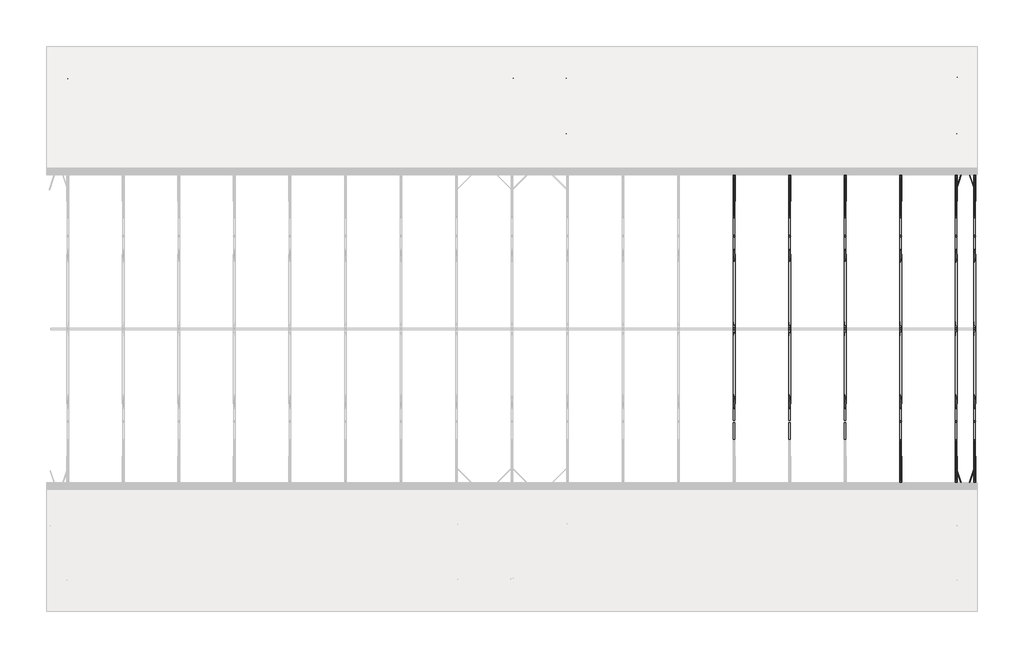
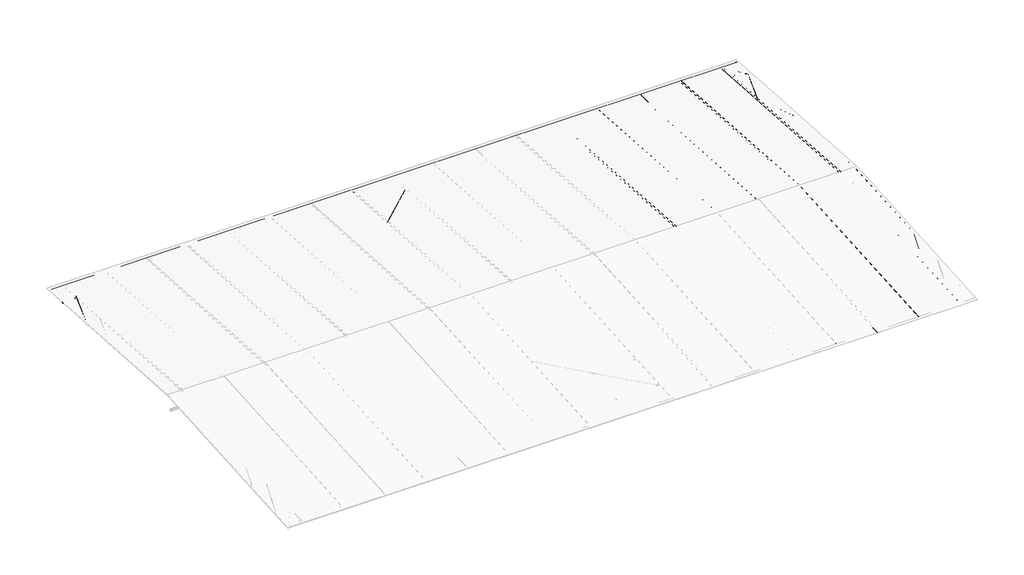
# One storey, part 3 of 3: 72 beams, 20 members.
"""IFC4 building model written with IfcOpenShell, lengths in millimetres."""

from ifc_helpers import new_model, si_unit, origin, place, context, project, spatial, transform, mapped, element, save
from components import round_bar_ef4423fe, round_bar_4b02da19, round_bar_197e2d5d, round_bar_92be63b7, round_bar_eebc96e0, round_bar_8cfec21f, round_bar_b8de9798, ub_universal_beams_ub305x165x40_7b27b8ec, ub_universal_beams_ub305x165x40_b91aa233, ub_universal_beams_ub305x165x40_f28fc4b8, ub_universal_beams_ub305x165x40_3e4cec4f, ub_universal_beams_ub305x165x40_2a322099, round_bars_rb_1_1_2_9ddfed39, round_bars_rb_1_1_2_a895e5a3, round_bars_rb_1_1_2_33a096da, round_bars_rb_1_1_2_096f664b, round_bars_rb_1_1_2_8bf5e9bd, round_bars_rb_1_1_2_8f09dae0, round_bars_rb_1_1_2_2b00b016, round_bars_rb_1_1_2_2cb97e74, round_bars_rb_1_1_2_9a199214, round_bars_rb_1_1_2_788aa87a, round_bars_rb_1_1_2_bb9791f2, round_bars_rb_1_1_2_0e442d66, round_bars_rb_1_1_2_57971bae, round_bars_rb_1_1_2_6163c6f7, round_bars_rb_1_1_2_9f87a777, round_bars_rb_1_1_2_a3ff04a2, round_bars_rb_1_1_2_305f0f3b, round_bars_rb_1_1_2_ce99a107

model = new_model("IFC4")

# Units and contexts
model_context = context("Model", 3, world=origin())
ifc_project = project(units=[si_unit("LENGTHUNIT", "METRE", prefix="MILLI")], contexts=[model_context])

# Site, building, storey
site = spatial("IfcSite", under=ifc_project)
building = spatial("IfcBuilding", under=site)
storey = spatial("IfcBuildingStorey", under=building, Name="Donji pojas resetke", Elevation=6000.0)

# Beams
placement = place(None, origin())
round_bar_shape = round_bar_ef4423fe(model_context)
element("IfcBeam", 1, ObjectType="Round Bar : Ispuna resetke", at=placement, inside=storey, context=model_context, shape_type="MappedRepresentation", body=[
    mapped(round_bar_shape, transform((65063.6750595, -22966.8171651, 7151.7), x_axis=(0.0, 0.0, 1.0), y_axis=(-1.0, 0.0, 0.0), z_axis=(0.0, -1.0, 0.0))),
])
element("IfcBeam", 2, ObjectType="Round Bar : Ispuna resetke", at=placement, inside=storey, context=model_context, shape_type="MappedRepresentation", body=[
    mapped(round_bar_shape, transform((71063.6750595, -22966.8171651, 7151.7), x_axis=(0.0, 0.0, 1.0), y_axis=(-1.0, 0.0, 0.0), z_axis=(0.0, -1.0, 0.0))),
])
element("IfcBeam", 3, ObjectType="Round Bar : Ispuna resetke", at=placement, inside=storey, context=model_context, shape_type="MappedRepresentation", body=[
    mapped(round_bar_shape, transform((77063.6750595, -22966.8171651, 7151.7), x_axis=(0.0, 0.0, 1.0), y_axis=(-1.0, 0.0, 0.0), z_axis=(0.0, -1.0, 0.0))),
])
element("IfcBeam", 4, ObjectType="Round Bar : Ispuna resetke", at=placement, inside=storey, context=model_context, shape_type="MappedRepresentation", body=[
    mapped(round_bar_shape, transform((83063.6750595, -22966.8171651, 7151.7), x_axis=(0.0, 0.0, 1.0), y_axis=(-1.0, 0.0, 0.0), z_axis=(0.0, -1.0, 0.0))),
])
element("IfcBeam", 5, ObjectType="Round Bar : Ispuna resetke", at=placement, inside=storey, context=model_context, shape_type="MappedRepresentation", body=[
    mapped(round_bar_shape, transform((89063.6750595, -22966.8171651, 7151.7), x_axis=(0.0, 0.0, 1.0), y_axis=(-1.0, 0.0, 0.0), z_axis=(0.0, -1.0, 0.0))),
])
element("IfcBeam", 6, ObjectType="Round Bar : Ispuna resetke", at=placement, inside=storey, context=model_context, shape_type="MappedRepresentation", body=[
    mapped(round_bar_shape, transform((91063.6750595, -22966.8171651, 7151.7), x_axis=(0.0, 0.0, 1.0), y_axis=(-1.0, 0.0, 0.0), z_axis=(0.0, -1.0, 0.0))),
])
element("IfcBeam", 7, ObjectType="Round Bar : Ispuna resetke", at=placement, inside=storey, context=model_context, shape_type="MappedRepresentation", body=[
    mapped(round_bar_shape, transform((89063.6750595, -22966.8171651, 7151.7), x_axis=(0.0, 0.0, 1.0), y_axis=(-1.0, 0.0, 0.0), z_axis=(0.0, -1.0, 0.0))),
])
round_bar_2_shape = round_bar_4b02da19(model_context)
element("IfcBeam", 8, ObjectType="Round Bar : Ispuna resetke", at=placement, inside=storey, context=model_context, shape_type="MappedRepresentation", body=[
    mapped(round_bar_2_shape, transform((65063.6750595, -12966.8171651, 6818.3666667), x_axis=(0.0, 0.0, 1.0), y_axis=(-1.0, 0.0, 0.0), z_axis=(0.0, -1.0, 0.0))),
])
element("IfcBeam", 9, ObjectType="Round Bar : Ispuna resetke", at=placement, inside=storey, context=model_context, shape_type="MappedRepresentation", body=[
    mapped(round_bar_2_shape, transform((71063.6750595, -12966.8171651, 6818.3666667), x_axis=(0.0, 0.0, 1.0), y_axis=(-1.0, 0.0, 0.0), z_axis=(0.0, -1.0, 0.0))),
])
element("IfcBeam", 10, ObjectType="Round Bar : Ispuna resetke", at=placement, inside=storey, context=model_context, shape_type="MappedRepresentation", body=[
    mapped(round_bar_2_shape, transform((77063.6750595, -12966.8171651, 6818.3666667), x_axis=(0.0, 0.0, 1.0), y_axis=(-1.0, 0.0, 0.0), z_axis=(0.0, -1.0, 0.0))),
])
element("IfcBeam", 11, ObjectType="Round Bar : Ispuna resetke", at=placement, inside=storey, context=model_context, shape_type="MappedRepresentation", body=[
    mapped(round_bar_2_shape, transform((83063.6750595, -12966.8171651, 6818.3666667), x_axis=(0.0, 0.0, 1.0), y_axis=(-1.0, 0.0, 0.0), z_axis=(0.0, -1.0, 0.0))),
])
element("IfcBeam", 12, ObjectType="Round Bar : Ispuna resetke", at=placement, inside=storey, context=model_context, shape_type="MappedRepresentation", body=[
    mapped(round_bar_2_shape, transform((83063.6750595, -32966.8171651, 6818.3666667), x_axis=(0.0, 0.0, 1.0), y_axis=(-1.0, 0.0, 0.0), z_axis=(0.0, -1.0, 0.0))),
])
element("IfcBeam", 13, ObjectType="Round Bar : Ispuna resetke", at=placement, inside=storey, context=model_context, shape_type="MappedRepresentation", body=[
    mapped(round_bar_2_shape, transform((89063.6750595, -12966.8171651, 6818.3666667), x_axis=(0.0, 0.0, 1.0), y_axis=(-1.0, 0.0, 0.0), z_axis=(0.0, -1.0, 0.0))),
])
element("IfcBeam", 14, ObjectType="Round Bar : Ispuna resetke", at=placement, inside=storey, context=model_context, shape_type="MappedRepresentation", body=[
    mapped(round_bar_2_shape, transform((89063.6750595, -32966.8171651, 6818.3666667), x_axis=(0.0, 0.0, 1.0), y_axis=(-1.0, 0.0, 0.0), z_axis=(0.0, -1.0, 0.0))),
])
element("IfcBeam", 15, ObjectType="Round Bar : Ispuna resetke", at=placement, inside=storey, context=model_context, shape_type="MappedRepresentation", body=[
    mapped(round_bar_2_shape, transform((91063.6750595, -12966.8171651, 6818.3666667), x_axis=(0.0, 0.0, 1.0), y_axis=(-1.0, 0.0, 0.0), z_axis=(0.0, -1.0, 0.0))),
])
element("IfcBeam", 16, ObjectType="Round Bar : Ispuna resetke", at=placement, inside=storey, context=model_context, shape_type="MappedRepresentation", body=[
    mapped(round_bar_2_shape, transform((91063.6750595, -32966.8171651, 6818.3666667), x_axis=(0.0, 0.0, 1.0), y_axis=(-1.0, 0.0, 0.0), z_axis=(0.0, -1.0, 0.0))),
])
element("IfcBeam", 17, ObjectType="Round Bar : Ispuna resetke", at=placement, inside=storey, context=model_context, shape_type="MappedRepresentation", body=[
    mapped(round_bar_2_shape, transform((89063.6750595, -12966.8171651, 6818.3666667), x_axis=(0.0, 0.0, 1.0), y_axis=(-1.0, 0.0, 0.0), z_axis=(0.0, -1.0, 0.0))),
])
element("IfcBeam", 18, ObjectType="Round Bar : Ispuna resetke", at=placement, inside=storey, context=model_context, shape_type="MappedRepresentation", body=[
    mapped(round_bar_2_shape, transform((89063.6750595, -32966.8171651, 6818.3666667), x_axis=(0.0, 0.0, 1.0), y_axis=(-1.0, 0.0, 0.0), z_axis=(0.0, -1.0, 0.0))),
])
round_bar_3_shape = round_bar_197e2d5d(model_context)
element("IfcBeam", 19, ObjectType="Round Bar : Ispuna resetke", at=placement, inside=storey, context=model_context, shape_type="MappedRepresentation", body=[
    mapped(round_bar_3_shape, transform((65063.6750595, -2966.8171651, 6485.0333333), x_axis=(0.0, 0.0, 1.0), y_axis=(-1.0, 0.0, 0.0), z_axis=(0.0, -1.0, 0.0))),
])
element("IfcBeam", 20, ObjectType="Round Bar : Ispuna resetke", at=placement, inside=storey, context=model_context, shape_type="MappedRepresentation", body=[
    mapped(round_bar_3_shape, transform((71063.6750595, -2966.8171651, 6485.0333333), x_axis=(0.0, 0.0, 1.0), y_axis=(-1.0, 0.0, 0.0), z_axis=(0.0, -1.0, 0.0))),
])
element("IfcBeam", 21, ObjectType="Round Bar : Ispuna resetke", at=placement, inside=storey, context=model_context, shape_type="MappedRepresentation", body=[
    mapped(round_bar_3_shape, transform((77063.6750595, -2966.8171651, 6485.0333333), x_axis=(0.0, 0.0, 1.0), y_axis=(-1.0, 0.0, 0.0), z_axis=(0.0, -1.0, 0.0))),
])
element("IfcBeam", 22, ObjectType="Round Bar : Ispuna resetke", at=placement, inside=storey, context=model_context, shape_type="MappedRepresentation", body=[
    mapped(round_bar_3_shape, transform((83063.6750595, -2966.8171651, 6485.0333333), x_axis=(0.0, 0.0, 1.0), y_axis=(-1.0, 0.0, 0.0), z_axis=(0.0, -1.0, 0.0))),
])
element("IfcBeam", 23, ObjectType="Round Bar : Ispuna resetke", at=placement, inside=storey, context=model_context, shape_type="MappedRepresentation", body=[
    mapped(round_bar_3_shape, transform((89063.6750595, -2966.8171651, 6485.0333333), x_axis=(0.0, 0.0, 1.0), y_axis=(-1.0, 0.0, 0.0), z_axis=(0.0, -1.0, 0.0))),
])
element("IfcBeam", 24, ObjectType="Round Bar : Ispuna resetke", at=placement, inside=storey, context=model_context, shape_type="MappedRepresentation", body=[
    mapped(round_bar_3_shape, transform((89063.6750595, -42966.8171651, 6485.0333333), x_axis=(0.0, 0.0, 1.0), y_axis=(-1.0, 0.0, 0.0), z_axis=(0.0, -1.0, 0.0))),
])
element("IfcBeam", 25, ObjectType="Round Bar : Ispuna resetke", at=placement, inside=storey, context=model_context, shape_type="MappedRepresentation", body=[
    mapped(round_bar_3_shape, transform((91063.6750595, -2966.8171651, 6485.0333333), x_axis=(0.0, 0.0, 1.0), y_axis=(-1.0, 0.0, 0.0), z_axis=(0.0, -1.0, 0.0))),
])
element("IfcBeam", 26, ObjectType="Round Bar : Ispuna resetke", at=placement, inside=storey, context=model_context, shape_type="MappedRepresentation", body=[
    mapped(round_bar_3_shape, transform((91063.6750595, -42966.8171651, 6485.0333333), x_axis=(0.0, 0.0, 1.0), y_axis=(-1.0, 0.0, 0.0), z_axis=(0.0, -1.0, 0.0))),
])
element("IfcBeam", 27, ObjectType="Round Bar : Ispuna resetke", at=placement, inside=storey, context=model_context, shape_type="MappedRepresentation", body=[
    mapped(round_bar_3_shape, transform((89063.6750595, -2966.8171651, 6485.0333333), x_axis=(0.0, 0.0, 1.0), y_axis=(-1.0, 0.0, 0.0), z_axis=(0.0, -1.0, 0.0))),
])
element("IfcBeam", 28, ObjectType="Round Bar : Ispuna resetke", at=placement, inside=storey, context=model_context, shape_type="MappedRepresentation", body=[
    mapped(round_bar_3_shape, transform((89063.6750595, -42966.8171651, 6485.0333333), x_axis=(0.0, 0.0, 1.0), y_axis=(-1.0, 0.0, 0.0), z_axis=(0.0, -1.0, 0.0))),
])
round_bar_4_shape = round_bar_92be63b7(model_context)
element("IfcBeam", 29, ObjectType="Round Bar : Ispuna resetke", at=placement, inside=storey, context=model_context, shape_type="MappedRepresentation", body=[
    mapped(round_bar_4_shape, transform((65063.6750595, -17966.8171651, 6818.3666667), x_axis=(0.0, -0.9912279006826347, -0.13216372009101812), y_axis=(-1.0, 0.0, 0.0), z_axis=(0.0, 0.13216372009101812, -0.9912279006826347))),
])
element("IfcBeam", 30, ObjectType="Round Bar : Ispuna resetke", at=placement, inside=storey, context=model_context, shape_type="MappedRepresentation", body=[
    mapped(round_bar_4_shape, transform((71063.6750595, -17966.8171651, 6818.3666667), x_axis=(0.0, -0.9912279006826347, -0.13216372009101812), y_axis=(-1.0, 0.0, 0.0), z_axis=(0.0, 0.13216372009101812, -0.9912279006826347))),
])
element("IfcBeam", 31, ObjectType="Round Bar : Ispuna resetke", at=placement, inside=storey, context=model_context, shape_type="MappedRepresentation", body=[
    mapped(round_bar_4_shape, transform((77063.6750595, -17966.8171651, 6818.3666667), x_axis=(0.0, -0.9912279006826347, -0.13216372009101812), y_axis=(-1.0, 0.0, 0.0), z_axis=(0.0, 0.13216372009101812, -0.9912279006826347))),
])
element("IfcBeam", 32, ObjectType="Round Bar : Ispuna resetke", at=placement, inside=storey, context=model_context, shape_type="MappedRepresentation", body=[
    mapped(round_bar_4_shape, transform((83063.6750595, -17966.8171651, 6818.3666667), x_axis=(0.0, -0.9912279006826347, -0.13216372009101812), y_axis=(-1.0, 0.0, 0.0), z_axis=(0.0, 0.13216372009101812, -0.9912279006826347))),
])
element("IfcBeam", 33, ObjectType="Round Bar : Ispuna resetke", at=placement, inside=storey, context=model_context, shape_type="MappedRepresentation", body=[
    mapped(round_bar_4_shape, transform((89063.6750595, -17966.8171651, 6818.3666667), x_axis=(0.0, -0.9912279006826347, -0.13216372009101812), y_axis=(-1.0, 0.0, 0.0), z_axis=(0.0, 0.13216372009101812, -0.9912279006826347))),
])
element("IfcBeam", 34, ObjectType="Round Bar : Ispuna resetke", at=placement, inside=storey, context=model_context, shape_type="MappedRepresentation", body=[
    mapped(round_bar_4_shape, transform((91063.6750595, -17966.8171651, 6818.3666667), x_axis=(0.0, -0.9912279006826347, -0.13216372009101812), y_axis=(-1.0, 0.0, 0.0), z_axis=(0.0, 0.13216372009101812, -0.9912279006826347))),
])
element("IfcBeam", 35, ObjectType="Round Bar : Ispuna resetke", at=placement, inside=storey, context=model_context, shape_type="MappedRepresentation", body=[
    mapped(round_bar_4_shape, transform((89063.6750595, -17966.8171651, 6818.3666667), x_axis=(0.0, -0.9912279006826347, -0.13216372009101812), y_axis=(-1.0, 0.0, 0.0), z_axis=(0.0, 0.13216372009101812, -0.9912279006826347))),
])
round_bar_5_shape = round_bar_eebc96e0(model_context)
element("IfcBeam", 36, ObjectType="Round Bar : Ispuna resetke", at=placement, inside=storey, context=model_context, shape_type="MappedRepresentation", body=[
    mapped(round_bar_5_shape, transform((65063.6750595, -7966.8171651, 6485.0333333), x_axis=(0.0, -0.9977851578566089, -0.06651901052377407), y_axis=(-1.0, 0.0, 0.0), z_axis=(0.0, 0.06651901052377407, -0.9977851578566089))),
])
element("IfcBeam", 37, ObjectType="Round Bar : Ispuna resetke", at=placement, inside=storey, context=model_context, shape_type="MappedRepresentation", body=[
    mapped(round_bar_5_shape, transform((71063.6750595, -7966.8171651, 6485.0333333), x_axis=(0.0, -0.9977851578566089, -0.06651901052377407), y_axis=(-1.0, 0.0, 0.0), z_axis=(0.0, 0.06651901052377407, -0.9977851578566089))),
])
element("IfcBeam", 38, ObjectType="Round Bar : Ispuna resetke", at=placement, inside=storey, context=model_context, shape_type="MappedRepresentation", body=[
    mapped(round_bar_5_shape, transform((77063.6750595, -7966.8171651, 6485.0333333), x_axis=(0.0, -0.9977851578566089, -0.06651901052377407), y_axis=(-1.0, 0.0, 0.0), z_axis=(0.0, 0.06651901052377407, -0.9977851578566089))),
])
element("IfcBeam", 39, ObjectType="Round Bar : Ispuna resetke", at=placement, inside=storey, context=model_context, shape_type="MappedRepresentation", body=[
    mapped(round_bar_5_shape, transform((83063.6750595, -7966.8171651, 6485.0333333), x_axis=(0.0, -0.9977851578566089, -0.06651901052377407), y_axis=(-1.0, 0.0, 0.0), z_axis=(0.0, 0.06651901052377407, -0.9977851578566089))),
])
element("IfcBeam", 40, ObjectType="Round Bar : Ispuna resetke", at=placement, inside=storey, context=model_context, shape_type="MappedRepresentation", body=[
    mapped(round_bar_5_shape, transform((89063.6750595, -7966.8171651, 6485.0333333), x_axis=(0.0, -0.9977851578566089, -0.06651901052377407), y_axis=(-1.0, 0.0, 0.0), z_axis=(0.0, 0.06651901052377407, -0.9977851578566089))),
])
element("IfcBeam", 41, ObjectType="Round Bar : Ispuna resetke", at=placement, inside=storey, context=model_context, shape_type="MappedRepresentation", body=[
    mapped(round_bar_5_shape, transform((91063.6750595, -7966.8171651, 6485.0333333), x_axis=(0.0, -0.9977851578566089, -0.06651901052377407), y_axis=(-1.0, 0.0, 0.0), z_axis=(0.0, 0.06651901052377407, -0.9977851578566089))),
])
element("IfcBeam", 42, ObjectType="Round Bar : Ispuna resetke", at=placement, inside=storey, context=model_context, shape_type="MappedRepresentation", body=[
    mapped(round_bar_5_shape, transform((89063.6750595, -7966.8171651, 6485.0333333), x_axis=(0.0, -0.9977851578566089, -0.06651901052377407), y_axis=(-1.0, 0.0, 0.0), z_axis=(0.0, 0.06651901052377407, -0.9977851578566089))),
])
round_bar_6_shape = round_bar_8cfec21f(model_context)
element("IfcBeam", 43, ObjectType="Round Bar : Ispuna resetke", at=placement, inside=storey, context=model_context, shape_type="MappedRepresentation", body=[
    mapped(round_bar_6_shape, transform((65063.6750595, -27966.8171651, 6818.3666667), x_axis=(0.0, -0.9912279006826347, 0.13216372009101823), y_axis=(-1.0, 0.0, 0.0), z_axis=(0.0, -0.13216372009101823, -0.9912279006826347))),
])
element("IfcBeam", 44, ObjectType="Round Bar : Ispuna resetke", at=placement, inside=storey, context=model_context, shape_type="MappedRepresentation", body=[
    mapped(round_bar_6_shape, transform((71063.6750595, -27966.8171651, 6818.3666667), x_axis=(0.0, -0.9912279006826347, 0.13216372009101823), y_axis=(-1.0, 0.0, 0.0), z_axis=(0.0, -0.13216372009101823, -0.9912279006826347))),
])
element("IfcBeam", 45, ObjectType="Round Bar : Ispuna resetke", at=placement, inside=storey, context=model_context, shape_type="MappedRepresentation", body=[
    mapped(round_bar_6_shape, transform((77063.6750595, -27966.8171651, 6818.3666667), x_axis=(0.0, -0.9912279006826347, 0.13216372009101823), y_axis=(-1.0, 0.0, 0.0), z_axis=(0.0, -0.13216372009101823, -0.9912279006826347))),
])
element("IfcBeam", 46, ObjectType="Round Bar : Ispuna resetke", at=placement, inside=storey, context=model_context, shape_type="MappedRepresentation", body=[
    mapped(round_bar_6_shape, transform((83063.6750595, -27966.8171651, 6818.3666667), x_axis=(0.0, -0.9912279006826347, 0.13216372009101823), y_axis=(-1.0, 0.0, 0.0), z_axis=(0.0, -0.13216372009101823, -0.9912279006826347))),
])
element("IfcBeam", 47, ObjectType="Round Bar : Ispuna resetke", at=placement, inside=storey, context=model_context, shape_type="MappedRepresentation", body=[
    mapped(round_bar_6_shape, transform((89063.6750595, -27966.8171651, 6818.3666667), x_axis=(0.0, -0.9912279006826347, 0.13216372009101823), y_axis=(-1.0, 0.0, 0.0), z_axis=(0.0, -0.13216372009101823, -0.9912279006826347))),
])
element("IfcBeam", 48, ObjectType="Round Bar : Ispuna resetke", at=placement, inside=storey, context=model_context, shape_type="MappedRepresentation", body=[
    mapped(round_bar_6_shape, transform((91063.6750595, -27966.8171651, 6818.3666667), x_axis=(0.0, -0.9912279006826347, 0.13216372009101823), y_axis=(-1.0, 0.0, 0.0), z_axis=(0.0, -0.13216372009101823, -0.9912279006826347))),
])
element("IfcBeam", 49, ObjectType="Round Bar : Ispuna resetke", at=placement, inside=storey, context=model_context, shape_type="MappedRepresentation", body=[
    mapped(round_bar_6_shape, transform((89063.6750595, -27966.8171651, 6818.3666667), x_axis=(0.0, -0.9912279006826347, 0.13216372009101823), y_axis=(-1.0, 0.0, 0.0), z_axis=(0.0, -0.13216372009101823, -0.9912279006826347))),
])
round_bar_7_shape = round_bar_b8de9798(model_context)
element("IfcBeam", 50, ObjectType="Round Bar : Ispuna resetke", at=placement, inside=storey, context=model_context, shape_type="MappedRepresentation", body=[
    mapped(round_bar_7_shape, transform((83063.6750595, -37966.8171651, 6485.0333333), x_axis=(0.0, -0.9977851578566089, 0.0665190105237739), y_axis=(-1.0, 0.0, 0.0), z_axis=(0.0, -0.0665190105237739, -0.9977851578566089))),
])
element("IfcBeam", 51, ObjectType="Round Bar : Ispuna resetke", at=placement, inside=storey, context=model_context, shape_type="MappedRepresentation", body=[
    mapped(round_bar_7_shape, transform((89063.6750595, -37966.8171651, 6485.0333333), x_axis=(0.0, -0.9977851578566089, 0.0665190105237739), y_axis=(-1.0, 0.0, 0.0), z_axis=(0.0, -0.0665190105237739, -0.9977851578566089))),
])
element("IfcBeam", 52, ObjectType="Round Bar : Ispuna resetke", at=placement, inside=storey, context=model_context, shape_type="MappedRepresentation", body=[
    mapped(round_bar_7_shape, transform((91063.6750595, -37966.8171651, 6485.0333333), x_axis=(0.0, -0.9977851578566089, 0.0665190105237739), y_axis=(-1.0, 0.0, 0.0), z_axis=(0.0, -0.0665190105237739, -0.9977851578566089))),
])
element("IfcBeam", 53, ObjectType="Round Bar : Ispuna resetke", at=placement, inside=storey, context=model_context, shape_type="MappedRepresentation", body=[
    mapped(round_bar_7_shape, transform((89063.6750595, -37966.8171651, 6485.0333333), x_axis=(0.0, -0.9977851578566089, 0.0665190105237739), y_axis=(-1.0, 0.0, 0.0), z_axis=(0.0, -0.0665190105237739, -0.9977851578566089))),
])
ub_universal_beams_ub305x165x40_shape = ub_universal_beams_ub305x165x40_7b27b8ec(model_context)
element("IfcBeam", 54, ObjectType="UB-Universal Beams : UB305x165x40", at=placement, inside=storey, context=model_context, shape_type="MappedRepresentation", body=[
    mapped(ub_universal_beams_ub305x165x40_shape, transform((65063.6750595, -22966.8171651, 6151.7), x_axis=(0.0, -1.0, 0.0), y_axis=(1.0, 0.0, 0.0), z_axis=(0.0, 0.0, 1.0))),
])
element("IfcBeam", 55, ObjectType="UB-Universal Beams : UB305x165x40", at=placement, inside=storey, context=model_context, shape_type="MappedRepresentation", body=[
    mapped(ub_universal_beams_ub305x165x40_shape, transform((71063.6750595, -22966.8171651, 6151.7), x_axis=(0.0, -1.0, 0.0), y_axis=(1.0, 0.0, 0.0), z_axis=(0.0, 0.0, 1.0))),
])
element("IfcBeam", 56, ObjectType="UB-Universal Beams : UB305x165x40", at=placement, inside=storey, context=model_context, shape_type="MappedRepresentation", body=[
    mapped(ub_universal_beams_ub305x165x40_shape, transform((77063.6750595, -22966.8171651, 6151.7), x_axis=(0.0, -1.0, 0.0), y_axis=(1.0, 0.0, 0.0), z_axis=(0.0, 0.0, 1.0))),
])
element("IfcBeam", 57, ObjectType="UB-Universal Beams : UB305x165x40", at=placement, inside=storey, context=model_context, shape_type="MappedRepresentation", body=[
    mapped(ub_universal_beams_ub305x165x40_shape, transform((83063.6750595, -22966.8171651, 6151.7), x_axis=(0.0, -1.0, 0.0), y_axis=(1.0, 0.0, 0.0), z_axis=(0.0, 0.0, 1.0))),
])
element("IfcBeam", 58, ObjectType="UB-Universal Beams : UB305x165x40", at=placement, inside=storey, context=model_context, shape_type="MappedRepresentation", body=[
    mapped(ub_universal_beams_ub305x165x40_shape, transform((89063.6750595, -22966.8171651, 6151.7), x_axis=(0.0, -1.0, 0.0), y_axis=(1.0, 0.0, 0.0), z_axis=(0.0, 0.0, 1.0))),
])
element("IfcBeam", 59, ObjectType="UB-Universal Beams : UB305x165x40", at=placement, inside=storey, context=model_context, shape_type="MappedRepresentation", body=[
    mapped(ub_universal_beams_ub305x165x40_shape, transform((91063.6750595, -22966.8171651, 6151.7), x_axis=(0.0, -1.0, 0.0), y_axis=(1.0, 0.0, 0.0), z_axis=(0.0, 0.0, 1.0))),
])
element("IfcBeam", 60, ObjectType="UB-Universal Beams : UB305x165x40", at=placement, inside=storey, context=model_context, shape_type="MappedRepresentation", body=[
    mapped(ub_universal_beams_ub305x165x40_shape, transform((89063.6750595, -22966.8171651, 6151.7), x_axis=(0.0, -1.0, 0.0), y_axis=(1.0, 0.0, 0.0), z_axis=(0.0, 0.0, 1.0))),
])
ub_universal_beams_ub305x165x40_2_shape = ub_universal_beams_ub305x165x40_b91aa233(model_context)
element("IfcBeam", 61, ObjectType="UB-Universal Beams : UB305x165x40", at=placement, inside=storey, context=model_context, shape_type="MappedRepresentation", body=[
    mapped(ub_universal_beams_ub305x165x40_2_shape, transform((91063.6750595, -7966.8171651, 7151.7), x_axis=(0.0, -0.9977851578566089, 0.06651901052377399), y_axis=(1.0, 0.0, 0.0), z_axis=(0.0, 0.06651901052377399, 0.9977851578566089))),
])
ub_universal_beams_ub305x165x40_3_shape = ub_universal_beams_ub305x165x40_f28fc4b8(model_context)
element("IfcBeam", 62, ObjectType="UB-Universal Beams : UB305x165x40", at=placement, inside=storey, context=model_context, shape_type="MappedRepresentation", body=[
    mapped(ub_universal_beams_ub305x165x40_3_shape, transform((83063.6750595, -37966.8171651, 7151.7), x_axis=(0.0, -0.9977851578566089, -0.06651901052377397), y_axis=(1.0, 0.0, 0.0), z_axis=(0.0, -0.06651901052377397, 0.9977851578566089))),
])
element("IfcBeam", 63, ObjectType="UB-Universal Beams : UB305x165x40", at=placement, inside=storey, context=model_context, shape_type="MappedRepresentation", body=[
    mapped(ub_universal_beams_ub305x165x40_3_shape, transform((89063.6750595, -37966.8171651, 7151.7), x_axis=(0.0, -0.9977851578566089, -0.06651901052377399), y_axis=(1.0, 0.0, 0.0), z_axis=(0.0, -0.06651901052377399, 0.9977851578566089))),
])
element("IfcBeam", 64, ObjectType="UB-Universal Beams : UB305x165x40", at=placement, inside=storey, context=model_context, shape_type="MappedRepresentation", body=[
    mapped(ub_universal_beams_ub305x165x40_3_shape, transform((91063.6750595, -37966.8171651, 7151.7), x_axis=(0.0, -0.9977851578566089, -0.066519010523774), y_axis=(1.0, 0.0, 0.0), z_axis=(0.0, -0.066519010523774, 0.9977851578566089))),
])
element("IfcBeam", 65, ObjectType="UB-Universal Beams : UB305x165x40", at=placement, inside=storey, context=model_context, shape_type="MappedRepresentation", body=[
    mapped(ub_universal_beams_ub305x165x40_3_shape, transform((89063.6750595, -37966.8171651, 7151.7), x_axis=(0.0, -0.9977851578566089, -0.06651901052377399), y_axis=(1.0, 0.0, 0.0), z_axis=(0.0, -0.06651901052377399, 0.9977851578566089))),
])
ub_universal_beams_ub305x165x40_4_shape = ub_universal_beams_ub305x165x40_3e4cec4f(model_context)
element("IfcBeam", 66, ObjectType="UB-Universal Beams : UB305x165x40", at=placement, inside=storey, context=model_context, shape_type="MappedRepresentation", body=[
    mapped(ub_universal_beams_ub305x165x40_4_shape, transform((65063.6750595, -7966.8171651, 7151.7), x_axis=(0.0, -0.9977851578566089, 0.06651901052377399), y_axis=(1.0, 0.0, 0.0), z_axis=(0.0, 0.06651901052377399, 0.9977851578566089))),
])
element("IfcBeam", 67, ObjectType="UB-Universal Beams : UB305x165x40", at=placement, inside=storey, context=model_context, shape_type="MappedRepresentation", body=[
    mapped(ub_universal_beams_ub305x165x40_4_shape, transform((71063.6750595, -7966.8171651, 7151.7), x_axis=(0.0, -0.9977851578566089, 0.06651901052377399), y_axis=(1.0, 0.0, 0.0), z_axis=(0.0, 0.06651901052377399, 0.9977851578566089))),
])
element("IfcBeam", 68, ObjectType="UB-Universal Beams : UB305x165x40", at=placement, inside=storey, context=model_context, shape_type="MappedRepresentation", body=[
    mapped(ub_universal_beams_ub305x165x40_4_shape, transform((77063.6750595, -7966.8171651, 7151.7), x_axis=(0.0, -0.9977851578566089, 0.06651901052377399), y_axis=(1.0, 0.0, 0.0), z_axis=(0.0, 0.06651901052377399, 0.9977851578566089))),
])
element("IfcBeam", 69, ObjectType="UB-Universal Beams : UB305x165x40", at=placement, inside=storey, context=model_context, shape_type="MappedRepresentation", body=[
    mapped(ub_universal_beams_ub305x165x40_4_shape, transform((83063.6750595, -7966.8171651, 7151.7), x_axis=(0.0, -0.9977851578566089, 0.06651901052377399), y_axis=(1.0, 0.0, 0.0), z_axis=(0.0, 0.06651901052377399, 0.9977851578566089))),
])
element("IfcBeam", 70, ObjectType="UB-Universal Beams : UB305x165x40", at=placement, inside=storey, context=model_context, shape_type="MappedRepresentation", body=[
    mapped(ub_universal_beams_ub305x165x40_4_shape, transform((89063.6750595, -7966.8171651, 7151.7), x_axis=(0.0, -0.9977851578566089, 0.06651901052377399), y_axis=(1.0, 0.0, 0.0), z_axis=(0.0, 0.06651901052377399, 0.9977851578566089))),
])
element("IfcBeam", 71, ObjectType="UB-Universal Beams : UB305x165x40", at=placement, inside=storey, context=model_context, shape_type="MappedRepresentation", body=[
    mapped(ub_universal_beams_ub305x165x40_4_shape, transform((89063.6750595, -7966.8171651, 7151.7), x_axis=(0.0, -0.9977851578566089, 0.06651901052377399), y_axis=(1.0, 0.0, 0.0), z_axis=(0.0, 0.06651901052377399, 0.9977851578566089))),
])
ub_universal_beams_ub305x165x40_5_shape = ub_universal_beams_ub305x165x40_2a322099(model_context)
element("IfcBeam", 72, ObjectType="UB-Universal Beams : UB305x165x40", at=placement, inside=storey, context=model_context, shape_type="MappedRepresentation", body=[
    mapped(ub_universal_beams_ub305x165x40_5_shape, transform((41063.6750595, 7033.1828349, 6151.7), x_axis=(1.0, 0.0, 0.0), y_axis=(0.0, 1.0, 0.0), z_axis=(0.0, 0.0, 1.0))),
])

# Members
round_bars_rb_1_1_2_shape = round_bars_rb_1_1_2_9ddfed39(model_context)
element("IfcMember", 73, ObjectType="Round Bars : RB 1 1/2", at=placement, inside=storey, context=model_context, shape_type="MappedRepresentation", body=[
    mapped(round_bars_rb_1_1_2_shape, transform((44063.6750595, 1016.0877627, 6552.8396715), x_axis=(-0.7071067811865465, 0.7055406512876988, -0.04703604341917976), y_axis=(-0.7063224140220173, -0.7078902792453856, 0.0), z_axis=(-0.03329635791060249, 0.03322261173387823, 0.998893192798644))),
])
round_bars_rb_1_1_2_2_shape = round_bars_rb_1_1_2_a895e5a3(model_context)
element("IfcMember", 74, ObjectType="Round Bars : RB 1 1/2", at=placement, inside=storey, context=model_context, shape_type="MappedRepresentation", body=[
    mapped(round_bars_rb_1_1_2_2_shape, transform((90063.6750595, 5539.9521456, 6251.2487126), x_axis=(0.555597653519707, 0.8296097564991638, -0.055307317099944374), y_axis=(-0.8308815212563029, 0.5564493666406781, 0.0), z_axis=(0.030775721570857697, 0.04595382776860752, 0.9984693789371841))),
])
round_bars_rb_1_1_2_3_shape = round_bars_rb_1_1_2_33a096da(model_context)
element("IfcMember", 75, ObjectType="Round Bars : RB 1 1/2", at=placement, inside=storey, context=model_context, shape_type="MappedRepresentation", body=[
    mapped(round_bars_rb_1_1_2_3_shape, transform((90063.6750595, 5527.4036246, 6252.0852807), x_axis=(-0.5523843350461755, 0.8317432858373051, -0.05544955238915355), y_axis=(-0.8330249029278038, -0.5532354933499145, 0.0), z_axis=(-0.030676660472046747, 0.04619085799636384, 0.9984614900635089))),
])
round_bars_rb_1_1_2_4_shape = round_bars_rb_1_1_2_096f664b(model_context)
element("IfcMember", 76, ObjectType="Round Bars : RB 1 1/2", at=placement, inside=storey, context=model_context, shape_type="MappedRepresentation", body=[
    mapped(round_bars_rb_1_1_2_4_shape, transform((90063.6750595, -4972.1668147, 6952.0566433), x_axis=(-0.3161046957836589, 0.9466230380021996, -0.06310820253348), y_axis=(-0.9485137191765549, -0.31673604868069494, 0.0), z_axis=(-0.01998864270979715, 0.05985899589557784, 0.9980066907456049))),
])
round_bars_rb_1_1_2_5_shape = round_bars_rb_1_1_2_8bf5e9bd(model_context)
element("IfcMember", 77, ObjectType="Round Bars : RB 1 1/2", at=placement, inside=storey, context=model_context, shape_type="MappedRepresentation", body=[
    mapped(round_bars_rb_1_1_2_5_shape, transform((38063.6750595, 1031.6828349, 6248.3), x_axis=(-0.706498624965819, 0.7061453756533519, -0.04709990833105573), y_axis=(-0.7069299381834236, -0.7072835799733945, 0.0), z_axis=(-0.03331299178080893, 0.033296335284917, 0.9988901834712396))),
])
round_bars_rb_1_1_2_6_shape = round_bars_rb_1_1_2_8f09dae0(model_context)
element("IfcMember", 78, ObjectType="Round Bars : RB 1 1/2", at=placement, inside=storey, context=model_context, shape_type="MappedRepresentation", body=[
    mapped(round_bars_rb_1_1_2_6_shape, transform((-7937.8249405, 5531.6828349, 5948.3), x_axis=(-0.5528904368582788, 0.8314121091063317, -0.055372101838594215), y_axis=(-0.8326896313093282, -0.5537399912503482, 0.0), z_axis=(-0.030661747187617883, 0.04610777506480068, 0.9984657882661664))),
])
round_bars_rb_1_1_2_7_shape = round_bars_rb_1_1_2_2b00b016(model_context)
element("IfcMember", 79, ObjectType="Round Bars : RB 1 1/2", at=placement, inside=storey, context=model_context, shape_type="MappedRepresentation", body=[
    mapped(round_bars_rb_1_1_2_7_shape, transform((90063.6750595, -40957.9019551, 6952.1943473), x_axis=(-0.3161590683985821, -0.9466070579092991, -0.06307552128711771), y_axis=(0.9484957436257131, -0.31678987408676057, 0.0), z_axis=(-0.019981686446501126, -0.059826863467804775, 0.9980087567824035))),
])
round_bars_rb_1_1_2_8_shape = round_bars_rb_1_1_2_2cb97e74(model_context)
element("IfcMember", 80, ObjectType="Round Bars : RB 1 1/2", at=placement, inside=storey, context=model_context, shape_type="MappedRepresentation", body=[
    mapped(round_bars_rb_1_1_2_8_shape, transform((90063.6750595, -40965.3171651, 6951.7), x_axis=(0.3157387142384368, -0.9467425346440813, -0.06314774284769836), y_axis=(0.9486358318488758, 0.31637012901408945, 0.0), z_axis=(0.019978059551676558, -0.05990421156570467, 0.9980041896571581))),
])
round_bars_rb_1_1_2_9_shape = round_bars_rb_1_1_2_9a199214(model_context)
element("IfcMember", 81, ObjectType="Round Bars : RB 1 1/2", at=placement, inside=storey, context=model_context, shape_type="MappedRepresentation", body=[
    mapped(round_bars_rb_1_1_2_9_shape, transform((90063.6750595, 1050.1689478, 6564.4215594), x_axis=(-0.3162916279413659, 0.9462599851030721, -0.06746589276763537), y_axis=(-0.9484208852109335, -0.31701391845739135, 0.0), z_axis=(-0.021387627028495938, 0.06398606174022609, 0.9977215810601))),
])
round_bars_rb_1_1_2_10_shape = round_bars_rb_1_1_2_788aa87a(model_context)
element("IfcMember", 82, ObjectType="Round Bars : RB 1 1/2", at=placement, inside=storey, context=model_context, shape_type="MappedRepresentation", body=[
    mapped(round_bars_rb_1_1_2_10_shape, transform((90037.0785918, -4954.1904256, 6964.7121843), x_axis=(0.30692233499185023, 0.9499065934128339, -0.05895883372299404), y_axis=(-0.9515619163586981, 0.30745718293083, 0.0), z_axis=(0.01812731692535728, 0.056102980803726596, 0.9982604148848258))),
])
round_bars_rb_1_1_2_11_shape = round_bars_rb_1_1_2_bb9791f2(model_context)
element("IfcMember", 83, ObjectType="Round Bars : RB 1 1/2", at=placement, inside=storey, context=model_context, shape_type="MappedRepresentation", body=[
    mapped(round_bars_rb_1_1_2_11_shape, transform((-7937.8249405, 1044.3095744, 6413.0121843), x_axis=(-0.3150382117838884, 0.9420772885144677, -0.11507088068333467), y_axis=(-0.948377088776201, -0.3171449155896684, 0.0), z_axis=(-0.03649414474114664, 0.10913058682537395, 0.9933572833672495))),
])
round_bars_rb_1_1_2_12_shape = round_bars_rb_1_1_2_0e442d66(model_context)
element("IfcMember", 84, ObjectType="Round Bars : RB 1 1/2", at=placement, inside=storey, context=model_context, shape_type="MappedRepresentation", body=[
    mapped(round_bars_rb_1_1_2_12_shape, transform((44063.6750595, 1041.9099071, 6564.9721621), x_axis=(0.7081623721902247, 0.7042612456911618, -0.050221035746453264), y_axis=(-0.7051510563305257, 0.7090571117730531, 0.0), z_axis=(0.03560958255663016, 0.03541341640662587, 0.9987381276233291))),
])
round_bars_rb_1_1_2_13_shape = round_bars_rb_1_1_2_57971bae(model_context)
element("IfcMember", 85, ObjectType="Round Bars : RB 1 1/2", at=placement, inside=storey, context=model_context, shape_type="MappedRepresentation", body=[
    mapped(round_bars_rb_1_1_2_13_shape, transform((38063.6750595, 1044.3095744, 6413.0121843), x_axis=(0.7061569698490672, 0.7028317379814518, -0.08584801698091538), y_axis=(-0.7054360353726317, 0.7087735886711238, 0.0), z_axis=(0.06084680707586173, 0.06056028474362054, 0.9963082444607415))),
])
round_bars_rb_1_1_2_14_shape = round_bars_rb_1_1_2_6163c6f7(model_context)
element("IfcMember", 86, ObjectType="Round Bars : RB 1 1/2", at=placement, inside=storey, context=model_context, shape_type="MappedRepresentation", body=[
    mapped(round_bars_rb_1_1_2_14_shape, transform((90063.6750595, 1051.7917876, 6578.167337), x_axis=(0.3162277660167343, 0.946582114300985, -0.06310547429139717), y_axis=(-0.9484725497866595, 0.3168593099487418, 0.0), z_axis=(0.01999555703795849, 0.05985381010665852, 0.998006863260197))),
])
round_bars_rb_1_1_2_15_shape = round_bars_rb_1_1_2_9f87a777(model_context)
element("IfcMember", 87, ObjectType="Round Bars : RB 1 1/2", at=placement, inside=storey, context=model_context, shape_type="MappedRepresentation", body=[
    mapped(round_bars_rb_1_1_2_15_shape, transform((-7937.8249405, 1051.7917876, 6578.167337), x_axis=(0.31580076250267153, 0.9467240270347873, -0.06311493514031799), y_axis=(-0.948615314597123, 0.31643164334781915, 0.0), z_axis=(0.019971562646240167, 0.05987179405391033, 0.9980062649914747))),
])
round_bars_rb_1_1_2_16_shape = round_bars_rb_1_1_2_a3ff04a2(model_context)
element("IfcMember", 88, ObjectType="Round Bars : RB 1 1/2", at=placement, inside=storey, context=model_context, shape_type="MappedRepresentation", body=[
    mapped(round_bars_rb_1_1_2_16_shape, transform((44063.6750595, 5539.1419102, 6265.1566953), x_axis=(0.8946303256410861, 0.4455243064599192, -0.033833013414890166), y_axis=(-0.44577951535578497, 0.8951427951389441, 0.0), z_axis=(0.03028537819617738, 0.015082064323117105, 0.9994274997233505))),
])
element("IfcMember", 89, ObjectType="Round Bars : RB 1 1/2", at=placement, inside=storey, context=model_context, shape_type="MappedRepresentation", body=[
    mapped(round_bars_rb_1_1_2_16_shape, transform((44063.6750595, 5539.1419102, 6265.1566953), x_axis=(-0.8946303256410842, 0.44552430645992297, -0.0338330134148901), y_axis=(-0.4457795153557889, -0.895142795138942, 0.0), z_axis=(-0.03028537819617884, 0.015082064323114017, 0.9994274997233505))),
])
round_bars_rb_1_1_2_17_shape = round_bars_rb_1_1_2_305f0f3b(model_context)
element("IfcMember", 90, ObjectType="Round Bars : RB 1 1/2", at=placement, inside=storey, context=model_context, shape_type="MappedRepresentation", body=[
    mapped(round_bars_rb_1_1_2_17_shape, transform((38063.6750595, 5539.165048, 6113.4551527), x_axis=(0.8923515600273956, 0.4443963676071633, -0.07887053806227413), y_axis=(-0.44578504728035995, 0.8951400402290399, 0.0), z_axis=(0.07060017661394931, 0.03515930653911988, 0.996884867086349))),
])
element("IfcMember", 91, ObjectType="Round Bars : RB 1 1/2", at=placement, inside=storey, context=model_context, shape_type="MappedRepresentation", body=[
    mapped(round_bars_rb_1_1_2_17_shape, transform((38063.6750595, 5539.165048, 6113.4551527), x_axis=(-0.8923515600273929, 0.4443963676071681, -0.07887053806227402), y_axis=(-0.44578504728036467, -0.8951400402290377, 0.0), z_axis=(-0.0706001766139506, 0.03515930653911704, 0.9968848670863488))),
])
round_bars_rb_1_1_2_18_shape = round_bars_rb_1_1_2_ce99a107(model_context)
element("IfcMember", 92, ObjectType="Round Bars : RB 1 1/2", at=placement, inside=storey, context=model_context, shape_type="MappedRepresentation", body=[
    mapped(round_bars_rb_1_1_2_18_shape, transform((-7937.8249405, 5531.6828349, 6100.0), x_axis=(0.553512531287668, 0.8323475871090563, 0.028659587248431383), y_axis=(-0.8326896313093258, 0.5537399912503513, 0.0), z_axis=(-0.015869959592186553, -0.023864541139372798, 0.9995892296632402))),
])

save(model, "model.ifc")
